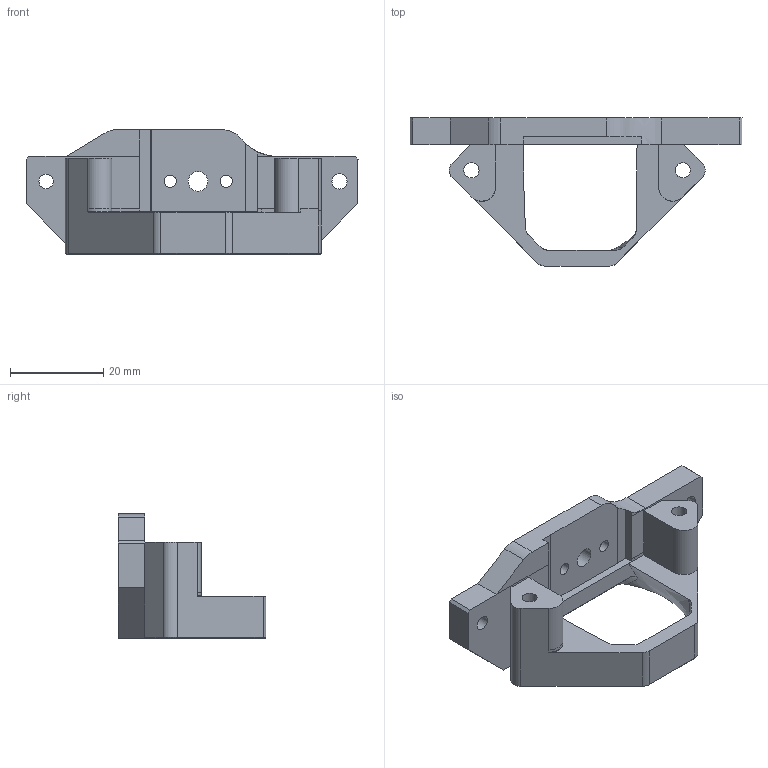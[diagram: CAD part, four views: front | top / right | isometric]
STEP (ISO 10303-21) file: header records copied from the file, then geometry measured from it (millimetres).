
FILE_DESCRIPTION(/* description */ (''),/* implementation_level */ '2;1');
FILE_NAME(/* name */ 'mount-sherpa-mini-r1-mosquito-2.1.step',/* time_stamp */ '2023-01-19T18:51:29+01:00',/* author */ (''),/* organization */ (''),/* preprocessor_version */ 'ST-DEVELOPER v19.2',/* originating_system */ 'Autodesk Translation Framework v11.17.0.187',/* authorisation */ '');
FILE_SCHEMA (('AUTOMOTIVE_DESIGN { 1 0 10303 214 3 1 1 }'));
Length unit declared in the file: millimetre
Products named in the file (1): mount-sherpa-mini-r1-mosquito-2.1
Bounding box: 71.07 x 31.68 x 26.66 mm (x, y, z)
Volume: 12558.5 mm3; surface area: 7428.1 mm2
Topology: 1 solids, 1 shells, 101 faces, 278 edges, 182 vertices
Faces by surface type: plane 52, cylinder 24, bspline 17, cone 8
Full cylindrical faces by diameter (mm): 2.6 x2, 3.1 x1, 3.25 x4, 3.3 x2, 4.2 x1, 4.6 x2
Entity records: 4161 total; most frequent: CARTESIAN_POINT 1595, ORIENTED_EDGE 556, DIRECTION 468, EDGE_CURVE 278, VERTEX_POINT 182, LINE 168, VECTOR 168, AXIS2_PLACEMENT_3D 150
